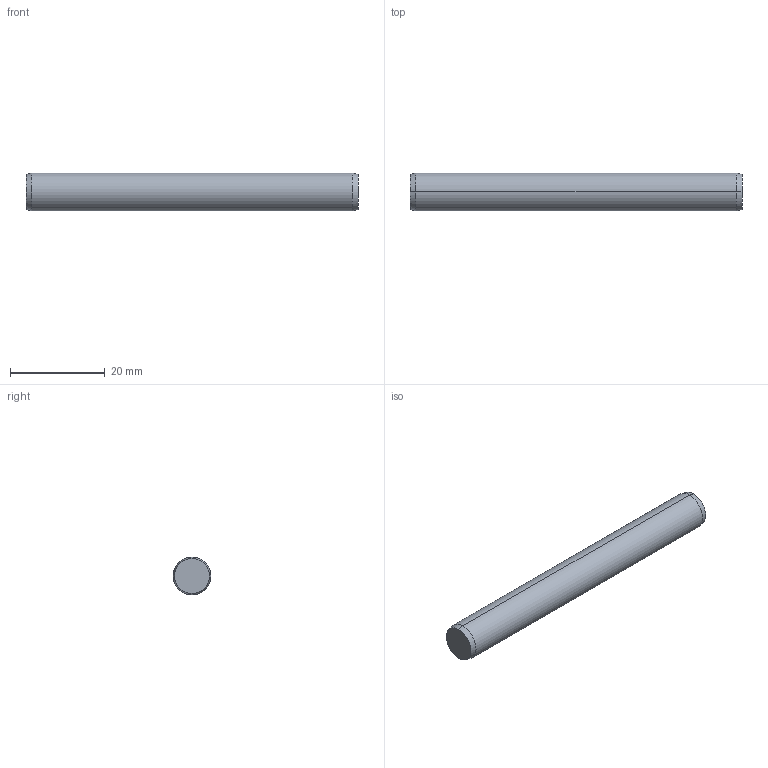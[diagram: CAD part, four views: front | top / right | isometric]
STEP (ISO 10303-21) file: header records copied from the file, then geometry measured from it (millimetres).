
FILE_DESCRIPTION (( 'STEP AP203' ), '1' );
FILE_NAME ('P1206.080-070.step', '2017-06-14T08:29:26', ( 'User' ), ( '' ), 'SwSTEP 2.0', 'SolidWorks 2009', '' );
FILE_SCHEMA (( 'CONFIG_CONTROL_DESIGN' ));
Length unit declared in the file: millimetre
Products named in the file (1): P1206.080-070
Bounding box: 70 x 8 x 8 mm (x, y, z)
Volume: 3509.1 mm3; surface area: 1843.9 mm2
Topology: 1 solids, 1 shells, 8 faces, 14 edges, 8 vertices
Faces by surface type: cone 4, cylinder 2, plane 2
Entity records: 271 total; most frequent: DIRECTION 40, CARTESIAN_POINT 31, ORIENTED_EDGE 28, AXIS2_PLACEMENT_3D 17, EDGE_CURVE 14, ADVANCED_FACE 8, EDGE_LOOP 8, VERTEX_POINT 8
